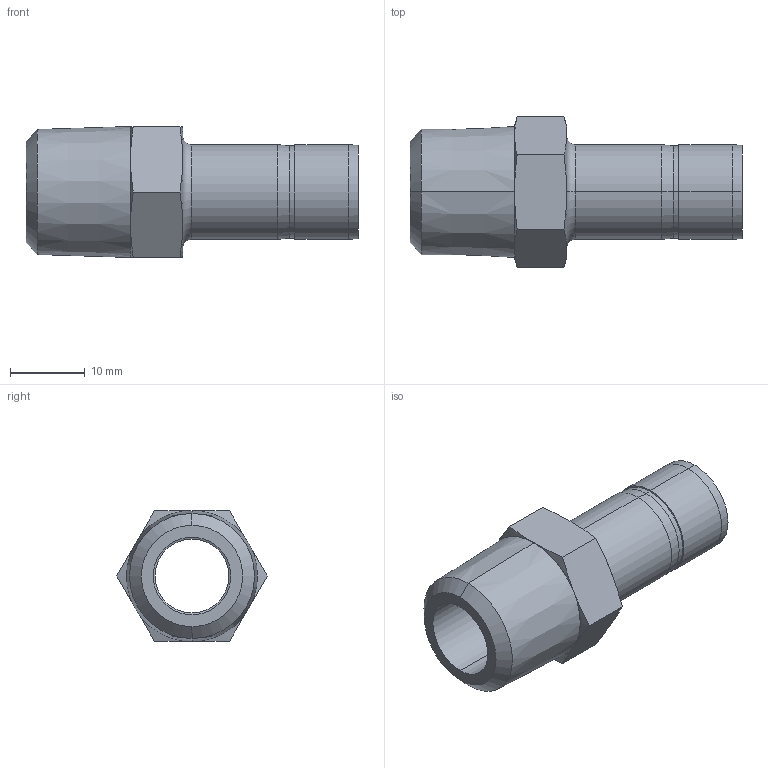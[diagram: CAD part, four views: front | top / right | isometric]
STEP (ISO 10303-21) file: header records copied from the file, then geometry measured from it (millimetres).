
FILE_DESCRIPTION (( 'STEP AP203' ), '1' );
FILE_NAME ('DHA08-06 SS.STEP', '2009-09-08T06:14:58', ( ' ' ), ( '' ), 'SwSTEP 2.0', 'SolidWorks 2008', '' );
FILE_SCHEMA (( 'CONFIG_CONTROL_DESIGN' ));
Length unit declared in the file: millimetre
Products named in the file (1): DHA08-06 SS
Bounding box: 44.5 x 20.16 x 17.55 mm (x, y, z)
Volume: 4429.9 mm3; surface area: 3794.5 mm2
Topology: 1 solids, 1 shells, 46 faces, 96 edges, 54 vertices
Faces by surface type: cone 24, cylinder 10, plane 10, torus 2
Entity records: 1349 total; most frequent: CARTESIAN_POINT 309, DIRECTION 210, ORIENTED_EDGE 192, EDGE_CURVE 96, AXIS2_PLACEMENT_3D 91, VERTEX_POINT 54, EDGE_LOOP 50, ADVANCED_FACE 46
